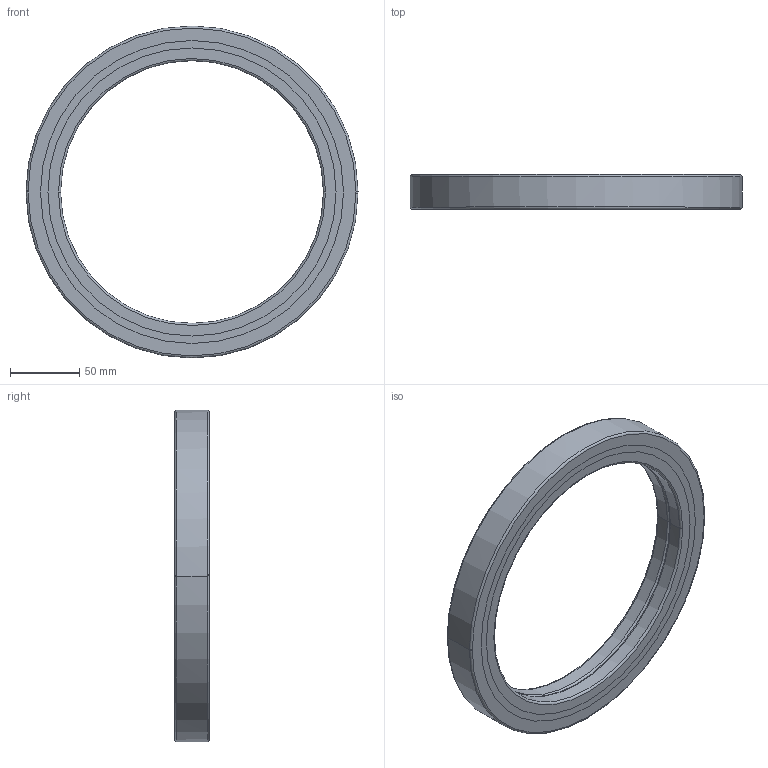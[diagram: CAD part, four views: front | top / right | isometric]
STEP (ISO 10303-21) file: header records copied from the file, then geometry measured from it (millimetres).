
FILE_DESCRIPTION(('no description'),'unknown implementation level');
FILE_NAME('CRBB19025_74.stp',' ',('HIWIN GmbH'),('CADClick - KiM GmbH - www.kimweb.de'),'unknown preprocess','ACIS','unknown authorization');
FILE_SCHEMA(('automotive_design'));
Length unit declared in the file: millimetre
Products named in the file (5): CRBB19025_1; CRBB19025_2; CRBB19025_3; CRBB19025_4; CRBB19025
Bounding box: 240 x 25 x 240 mm (x, y, z)
Volume: 342360.3 mm3; surface area: 121919 mm2
Topology: 5 solids, 5 shells, 54 faces, 120 edges, 76 vertices
Faces by surface type: torus 24, cylinder 20, plane 10
Entity records: 3096 total; most frequent: DIRECTION 338, STYLED_ITEM 255, PRESENTATION_STYLE_ASSIGNMENT 255, CARTESIAN_POINT 255, COLOUR_RGB 255, ORIENTED_EDGE 240, AXIS2_PLACEMENT_3D 159, EDGE_CURVE 120
